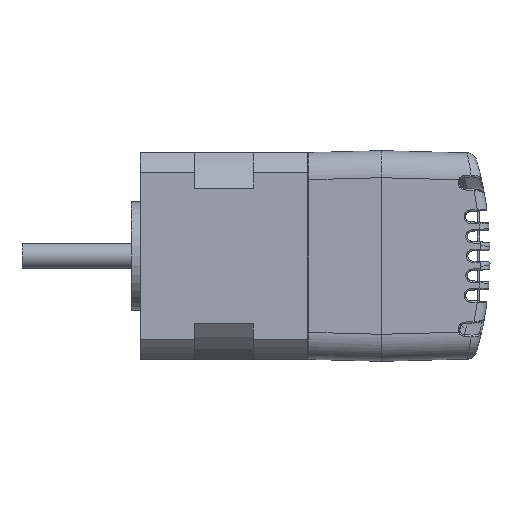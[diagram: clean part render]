
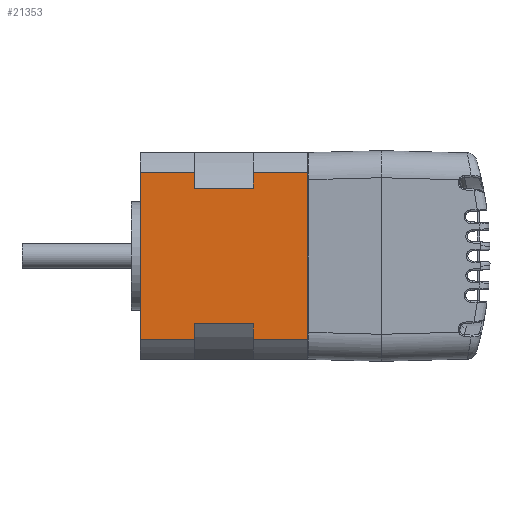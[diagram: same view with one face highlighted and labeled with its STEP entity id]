
A CAD part, front view. The second image highlights one B-rep face of the part: STEP entity #21353.
In plain terms, the highlighted planar face has unit normal (0, -1, 0).
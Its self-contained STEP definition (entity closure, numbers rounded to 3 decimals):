
#368 = VERTEX_POINT ( 'NONE', #94872 ) ;
#802 = EDGE_CURVE ( 'NONE', #39026, #56084, #32028, .T. ) ;
#1911 = VERTEX_POINT ( 'NONE', #55340 ) ;
#2779 = LINE ( 'NONE', #33424, #80282 ) ;
#3158 = DIRECTION ( 'NONE',  ( 1., 0., 0. ) ) ;
#8089 = CARTESIAN_POINT ( 'NONE',  ( 37.971, 0., 23. ) ) ;
#8834 = LINE ( 'NONE', #94274, #66427 ) ;
#9956 = AXIS2_PLACEMENT_3D ( 'NONE', #33430, #93495, #48540 ) ;
#10039 = ORIENTED_EDGE ( 'NONE', *, *, #93290, .F. ) ;
#10882 = CARTESIAN_POINT ( 'NONE',  ( 37.971, 0., 11. ) ) ;
#12073 = CARTESIAN_POINT ( 'NONE',  ( 37.971, 0., 0. ) ) ;
#12290 = VERTEX_POINT ( 'NONE', #37949 ) ;
#12423 = LINE ( 'NONE', #34500, #96994 ) ;
#12935 = DIRECTION ( 'NONE',  ( 1., 0., 0. ) ) ;
#13223 = VECTOR ( 'NONE', #3158, 1000. ) ;
#14353 = LINE ( 'NONE', #49987, #51948 ) ;
#14486 = VECTOR ( 'NONE', #67110, 1000. ) ;
#15020 = ORIENTED_EDGE ( 'NONE', *, *, #16212, .F. ) ;
#16212 = EDGE_CURVE ( 'NONE', #1911, #39026, #77632, .T. ) ;
#16554 = ORIENTED_EDGE ( 'NONE', *, *, #29930, .T. ) ;
#18397 = ORIENTED_EDGE ( 'NONE', *, *, #93996, .F. ) ;
#20330 = VERTEX_POINT ( 'NONE', #8089 ) ;
#20637 = CARTESIAN_POINT ( 'NONE',  ( 4.029, 0., 34. ) ) ;
#20883 = VERTEX_POINT ( 'NONE', #83424 ) ;
#21353 = ADVANCED_FACE ( 'NONE', ( #47714 ), #85908, .F. ) ;
#21386 = CARTESIAN_POINT ( 'NONE',  ( 4.029, 0., 34. ) ) ;
#24204 = VECTOR ( 'NONE', #29245, 1000. ) ;
#26030 = DIRECTION ( 'NONE',  ( 0., 0., -1. ) ) ;
#26724 = VECTOR ( 'NONE', #12935, 1000. ) ;
#27920 = VECTOR ( 'NONE', #65577, 1000. ) ;
#28732 = ORIENTED_EDGE ( 'NONE', *, *, #59110, .T. ) ;
#29125 = LINE ( 'NONE', #65467, #26724 ) ;
#29245 = DIRECTION ( 'NONE',  ( 0., 0., 1. ) ) ;
#29930 = EDGE_CURVE ( 'NONE', #55762, #64505, #8834, .T. ) ;
#32028 = LINE ( 'NONE', #96250, #69594 ) ;
#33181 = LINE ( 'NONE', #40304, #13223 ) ;
#33424 = CARTESIAN_POINT ( 'NONE',  ( 37.971, 0., 34. ) ) ;
#33430 = CARTESIAN_POINT ( 'NONE',  ( 4.029, 0., 34. ) ) ;
#33541 = ORIENTED_EDGE ( 'NONE', *, *, #59520, .T. ) ;
#34500 = CARTESIAN_POINT ( 'NONE',  ( 34.766, 0., 11. ) ) ;
#37151 = ORIENTED_EDGE ( 'NONE', *, *, #64092, .T. ) ;
#37949 = CARTESIAN_POINT ( 'NONE',  ( 4.029, 0., 11. ) ) ;
#39026 = VERTEX_POINT ( 'NONE', #10882 ) ;
#40304 = CARTESIAN_POINT ( 'NONE',  ( 4.029, 0., 23. ) ) ;
#40993 = DIRECTION ( 'NONE',  ( 0., 0., -1. ) ) ;
#41466 = EDGE_LOOP ( 'NONE', ( #67608, #37151, #95508, #81664, #15020, #76684, #33541, #71157, #18397, #16554, #28732, #10039 ) ) ;
#43764 = DIRECTION ( 'NONE',  ( 0., 0., -1. ) ) ;
#44205 = LINE ( 'NONE', #96513, #24204 ) ;
#45058 = DIRECTION ( 'NONE',  ( 1., 0., 0. ) ) ;
#47714 = FACE_OUTER_BOUND ( 'NONE', #41466, .T. ) ;
#48540 = DIRECTION ( 'NONE',  ( -1., 0., 0. ) ) ;
#49987 = CARTESIAN_POINT ( 'NONE',  ( 4.029, 0., 23. ) ) ;
#51948 = VECTOR ( 'NONE', #80119, 1000. ) ;
#55340 = CARTESIAN_POINT ( 'NONE',  ( 34.766, 0., 11. ) ) ;
#55343 = VECTOR ( 'NONE', #93080, 1000. ) ;
#55352 = VERTEX_POINT ( 'NONE', #92611 ) ;
#55499 = EDGE_CURVE ( 'NONE', #93842, #1911, #12423, .T. ) ;
#55762 = VERTEX_POINT ( 'NONE', #21386 ) ;
#56084 = VERTEX_POINT ( 'NONE', #12073 ) ;
#59110 = EDGE_CURVE ( 'NONE', #64505, #368, #33181, .T. ) ;
#59520 = EDGE_CURVE ( 'NONE', #93842, #20330, #14353, .T. ) ;
#64092 = EDGE_CURVE ( 'NONE', #12290, #85148, #90171, .T. ) ;
#64505 = VERTEX_POINT ( 'NONE', #70415 ) ;
#65467 = CARTESIAN_POINT ( 'NONE',  ( 4.029, 0., 34. ) ) ;
#65577 = DIRECTION ( 'NONE',  ( 0., 0., -1. ) ) ;
#66427 = VECTOR ( 'NONE', #26030, 1000. ) ;
#67110 = DIRECTION ( 'NONE',  ( 1., 0., 0. ) ) ;
#67608 = ORIENTED_EDGE ( 'NONE', *, *, #80151, .F. ) ;
#69594 = VECTOR ( 'NONE', #43764, 1000. ) ;
#70415 = CARTESIAN_POINT ( 'NONE',  ( 4.029, 0., 23. ) ) ;
#71157 = ORIENTED_EDGE ( 'NONE', *, *, #83570, .F. ) ;
#76684 = ORIENTED_EDGE ( 'NONE', *, *, #55499, .F. ) ;
#77632 = LINE ( 'NONE', #85509, #55343 ) ;
#80119 = DIRECTION ( 'NONE',  ( 1., 0., 0. ) ) ;
#80151 = EDGE_CURVE ( 'NONE', #12290, #20883, #86901, .T. ) ;
#80282 = VECTOR ( 'NONE', #40993, 1000. ) ;
#81664 = ORIENTED_EDGE ( 'NONE', *, *, #802, .F. ) ;
#83424 = CARTESIAN_POINT ( 'NONE',  ( 7.234, 0., 11. ) ) ;
#83570 = EDGE_CURVE ( 'NONE', #55352, #20330, #2779, .T. ) ;
#84173 = EDGE_CURVE ( 'NONE', #85148, #56084, #94327, .T. ) ;
#84176 = CARTESIAN_POINT ( 'NONE',  ( 4.029, 0., 0. ) ) ;
#85148 = VERTEX_POINT ( 'NONE', #84176 ) ;
#85509 = CARTESIAN_POINT ( 'NONE',  ( 4.029, 0., 11. ) ) ;
#85908 = PLANE ( 'NONE',  #9956 ) ;
#86901 = LINE ( 'NONE', #89997, #91617 ) ;
#87001 = DIRECTION ( 'NONE',  ( 0., 0., -1. ) ) ;
#89726 = CARTESIAN_POINT ( 'NONE',  ( 4.029, 0., 0. ) ) ;
#89997 = CARTESIAN_POINT ( 'NONE',  ( 4.029, 0., 11. ) ) ;
#90171 = LINE ( 'NONE', #20637, #27920 ) ;
#91617 = VECTOR ( 'NONE', #45058, 1000. ) ;
#92611 = CARTESIAN_POINT ( 'NONE',  ( 37.971, 0., 34. ) ) ;
#93080 = DIRECTION ( 'NONE',  ( 1., 0., 0. ) ) ;
#93290 = EDGE_CURVE ( 'NONE', #20883, #368, #44205, .T. ) ;
#93495 = DIRECTION ( 'NONE',  ( 0., 1., 0. ) ) ;
#93842 = VERTEX_POINT ( 'NONE', #94329 ) ;
#93996 = EDGE_CURVE ( 'NONE', #55762, #55352, #29125, .T. ) ;
#94274 = CARTESIAN_POINT ( 'NONE',  ( 4.029, 0., 34. ) ) ;
#94327 = LINE ( 'NONE', #89726, #14486 ) ;
#94329 = CARTESIAN_POINT ( 'NONE',  ( 34.766, 0., 23. ) ) ;
#94872 = CARTESIAN_POINT ( 'NONE',  ( 7.234, 0., 23. ) ) ;
#95508 = ORIENTED_EDGE ( 'NONE', *, *, #84173, .T. ) ;
#96250 = CARTESIAN_POINT ( 'NONE',  ( 37.971, 0., 34. ) ) ;
#96513 = CARTESIAN_POINT ( 'NONE',  ( 7.234, 0., 11. ) ) ;
#96994 = VECTOR ( 'NONE', #87001, 1000. ) ;
